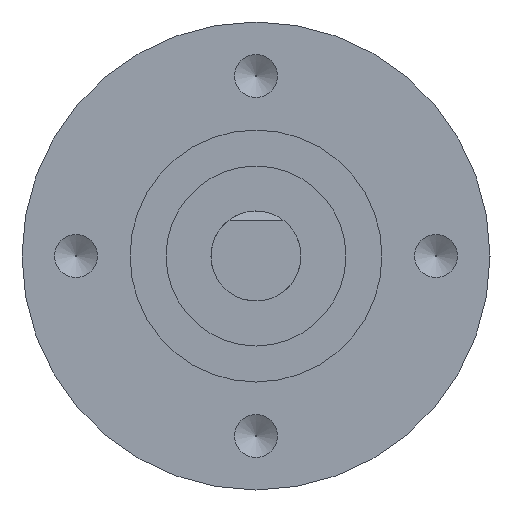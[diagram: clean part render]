
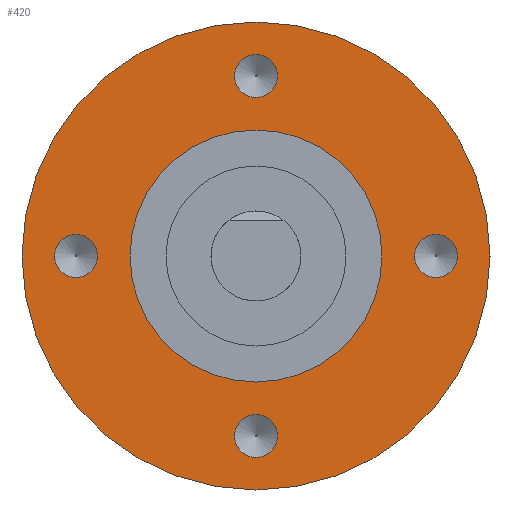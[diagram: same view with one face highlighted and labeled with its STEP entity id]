
A CAD part, left-side view. The second image highlights one B-rep face of the part: STEP entity #420.
In plain terms, the highlighted planar face has unit normal (-1, 0, 0).
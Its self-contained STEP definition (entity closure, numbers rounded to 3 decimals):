
#420=ADVANCED_FACE('', (#430,#440,#450,#460,#470,#480), #490, .T.);
#2100=AXIS2_PLACEMENT_3D('Ax2Pl3d', #2110, #2120, #2130);
#2180=AXIS2_PLACEMENT_3D('Ax2Pl3d', #2190, #2200, #2210);
#2220=AXIS2_PLACEMENT_3D('Ax2Pl3d', #2230, #2240, #2250);
#2260=AXIS2_PLACEMENT_3D('Ax2Pl3d', #2270, #2280, #2290);
#2300=AXIS2_PLACEMENT_3D('Ax2Pl3d', #2310, #2320, #2330);
#2340=AXIS2_PLACEMENT_3D('Ax2Pl3d', #2350, #2360, #2370);
#2380=AXIS2_PLACEMENT_3D('Ax2Pl3d', #2390, #2400, #2410);
#2110=CARTESIAN_POINT('HicPkt', (0.,10.,0.));
#4100=CARTESIAN_POINT('', (0.,11.195,0.));
#2190=CARTESIAN_POINT('HicPkt', (0.,0.,13.));
#2230=CARTESIAN_POINT('HicPkt', (0.,0.,0.));
#4120=CARTESIAN_POINT('', (0.,0.,13.));
#2270=CARTESIAN_POINT('HicPkt', (0.,-10.,0.));
#4130=CARTESIAN_POINT('', (0.,-8.805,0.));
#2310=CARTESIAN_POINT('HicPkt', (0.,0.,-10.));
#4140=CARTESIAN_POINT('', (0.,1.195,-10.));
#2350=CARTESIAN_POINT('HicPkt', (0.,0.,10.));
#4150=CARTESIAN_POINT('', (0.,1.195,10.));
#2390=CARTESIAN_POINT('HicPkt', (0.,0.,0.));
#4160=CARTESIAN_POINT('', (0.,7.,0.));
#4470=CIRCLE('Circle', #2100, 1.195);
#4490=CIRCLE('Circle', #2220, 13.);
#4500=CIRCLE('Circle', #2260, 1.195);
#4510=CIRCLE('Circle', #2300, 1.195);
#4520=CIRCLE('Circle', #2340, 1.195);
#4530=CIRCLE('Circle', #2380, 7.);
#2120=DIRECTION('Axis', (-1.,0.,0.))
;
#2130=DIRECTION('RefDirection', (0.,
0.,-1.));
#2200=DIRECTION('Axis', (-1.,0.,0.))
;
#2210=DIRECTION('RefDirection', (0.,
0.,-1.));
#2240=DIRECTION('Axis', (-1.,0.,0.))
;
#2250=DIRECTION('RefDirection', (0.,
0.,-1.));
#2280=DIRECTION('Axis', (-1.,0.,0.))
;
#2290=DIRECTION('RefDirection', (0.,
0.,-1.));
#2320=DIRECTION('Axis', (-1.,0.,0.))
;
#2330=DIRECTION('RefDirection', (0.,
0.,-1.));
#2360=DIRECTION('Axis', (-1.,0.,0.))
;
#2370=DIRECTION('RefDirection', (0.,
0.,-1.));
#2400=DIRECTION('Axis', (-1.,0.,0.))
;
#2410=DIRECTION('RefDirection', (0.,
0.,-1.));
#6330=EDGE_CURVE('', #6340, #6340, #4470, .T.);
#6370=EDGE_CURVE('', #6380, #6380, #4490, .T.);
#6390=EDGE_CURVE('', #6400, #6400, #4500, .T.);
#6410=EDGE_CURVE('', #6420, #6420, #4510, .T.);
#6430=EDGE_CURVE('', #6440, #6440, #4520, .T.);
#6450=EDGE_CURVE('', #6460, #6460, #4530, .T.);
#7240=EDGE_LOOP('Edge_loop', (#7250));
#7260=EDGE_LOOP('Edge_loop', (#7270));
#7280=EDGE_LOOP('Edge_loop', (#7290));
#7300=EDGE_LOOP('Edge_loop', (#7310));
#7320=EDGE_LOOP('Edge_loop', (#7330));
#7340=EDGE_LOOP('Edge_loop', (#7350));
#440=FACE_BOUND('', #7260, .T.);
#450=FACE_BOUND('', #7280, .T.);
#460=FACE_BOUND('', #7300, .T.);
#470=FACE_BOUND('', #7320, .T.);
#480=FACE_BOUND('', #7340, .T.);
#430=FACE_OUTER_BOUND('Face_outer_bound', #7240, .T.);
#7250=ORIENTED_EDGE('', *, *, #6370, .T.);
#7270=ORIENTED_EDGE('', *, *, #6330, .F.);
#7290=ORIENTED_EDGE('', *, *, #6390, .F.);
#7310=ORIENTED_EDGE('', *, *, #6410, .F.);
#7330=ORIENTED_EDGE('', *, *, #6430, .F.);
#7350=ORIENTED_EDGE('', *, *, #6450, .F.);
#490=PLANE('Plane', #2180);
#6340=VERTEX_POINT('', #4100);
#6380=VERTEX_POINT('', #4120);
#6400=VERTEX_POINT('', #4130);
#6420=VERTEX_POINT('', #4140);
#6440=VERTEX_POINT('', #4150);
#6460=VERTEX_POINT('', #4160);
